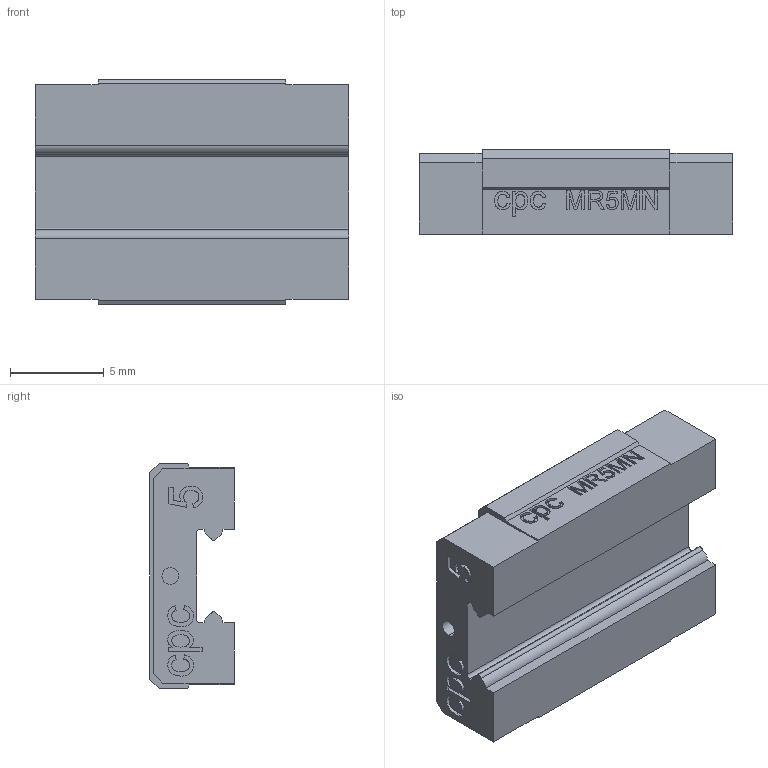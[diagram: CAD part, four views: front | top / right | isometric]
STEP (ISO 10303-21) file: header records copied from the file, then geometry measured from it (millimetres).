
FILE_DESCRIPTION (( 'STEP AP203' ), '1' );
FILE_NAME ('5MN-SS-block.STEP', '2009-08-20T09:20:35', ( 'cpc' ), ( '' ), 'SwSTEP 2.0', 'SolidWorks 2007', '' );
FILE_SCHEMA (( 'CONFIG_CONTROL_DESIGN' ));
Length unit declared in the file: millimetre
Products named in the file (1): 5MN-SS-block
Bounding box: 16.7 x 4.5 x 12 mm (x, y, z)
Volume: 682.4 mm3; surface area: 768.9 mm2
Topology: 1 solids, 1 shells, 407 faces, 1105 edges, 732 vertices
Faces by surface type: plane 222, bspline 156, cylinder 21, cone 8
Entity records: 21534 total; most frequent: CARTESIAN_POINT 12237, ORIENTED_EDGE 2202, DIRECTION 1339, EDGE_CURVE 1101, VECTOR 743, LINE 743, VERTEX_POINT 732, EDGE_LOOP 443
